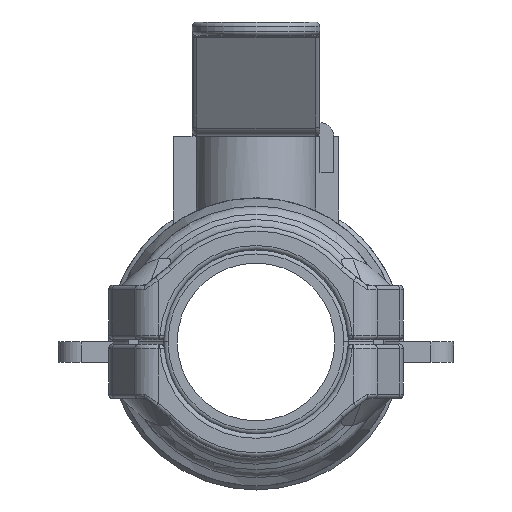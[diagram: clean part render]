
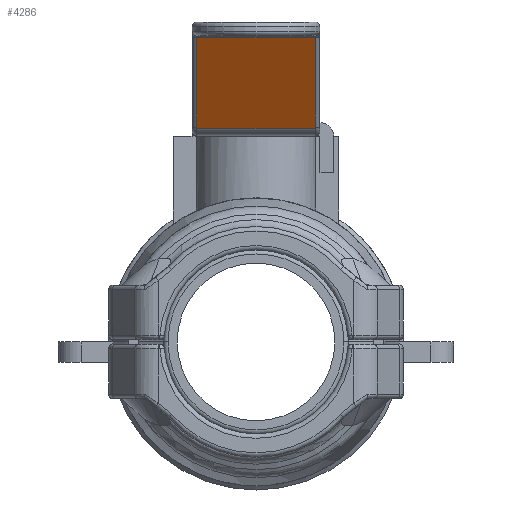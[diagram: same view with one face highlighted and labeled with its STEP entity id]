
A CAD part, left-side view. The second image highlights one B-rep face of the part: STEP entity #4286.
In plain terms, the highlighted planar face has unit normal (-0.835, 0, -0.55).
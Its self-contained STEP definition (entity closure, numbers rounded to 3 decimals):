
#1055=DIRECTION('',(0.55,0.,-0.835));
#1056=VECTOR('',#1055,23.832);
#1057=CARTESIAN_POINT('',(42.999,13.097,67.047));
#1058=LINE('',#1057,#1056);
#1062=DIRECTION('',(0.,1.,0.));
#1063=VECTOR('',#1062,26.194);
#1064=CARTESIAN_POINT('',(42.999,-13.097,67.047));
#1065=LINE('',#1064,#1063);
#1069=DIRECTION('',(-0.55,0.,0.835));
#1070=VECTOR('',#1069,23.832);
#1071=CARTESIAN_POINT('',(56.114,-13.097,47.148));
#1072=LINE('',#1071,#1070);
#1076=DIRECTION('',(0.,-1.,0.));
#1077=VECTOR('',#1076,26.194);
#1078=CARTESIAN_POINT('',(56.114,13.097,47.148));
#1079=LINE('',#1078,#1077);
#3265=CARTESIAN_POINT('',(56.114,13.097,47.148));
#3266=VERTEX_POINT('',#3265);
#3269=CARTESIAN_POINT('',(42.999,13.097,67.047));
#3270=VERTEX_POINT('',#3269);
#3289=CARTESIAN_POINT('',(42.999,-13.097,67.047));
#3290=VERTEX_POINT('',#3289);
#3293=CARTESIAN_POINT('',(56.114,-13.097,47.148));
#3294=VERTEX_POINT('',#3293);
#4273=CARTESIAN_POINT('',(57.309,-14.104,45.336));
#4274=DIRECTION('',(-0.835,0.,-0.55));
#4275=DIRECTION('',(-0.55,0.,0.835));
#4276=AXIS2_PLACEMENT_3D('',#4273,#4274,#4275);
#4277=PLANE('',#4276);
#4279=ORIENTED_EDGE('',*,*,#4278,.F.);
#4280=ORIENTED_EDGE('',*,*,#4228,.F.);
#4281=ORIENTED_EDGE('',*,*,#4264,.F.);
#4283=ORIENTED_EDGE('',*,*,#4282,.F.);
#4284=EDGE_LOOP('',(#4279,#4280,#4281,#4283));
#4285=FACE_OUTER_BOUND('',#4284,.F.);
#4228=EDGE_CURVE('',#3290,#3270,#1065,.T.);
#4264=EDGE_CURVE('',#3294,#3290,#1072,.T.);
#4278=EDGE_CURVE('',#3270,#3266,#1058,.T.);
#4282=EDGE_CURVE('',#3266,#3294,#1079,.T.);
#4286=ADVANCED_FACE('',(#4285),#4277,.T.);
